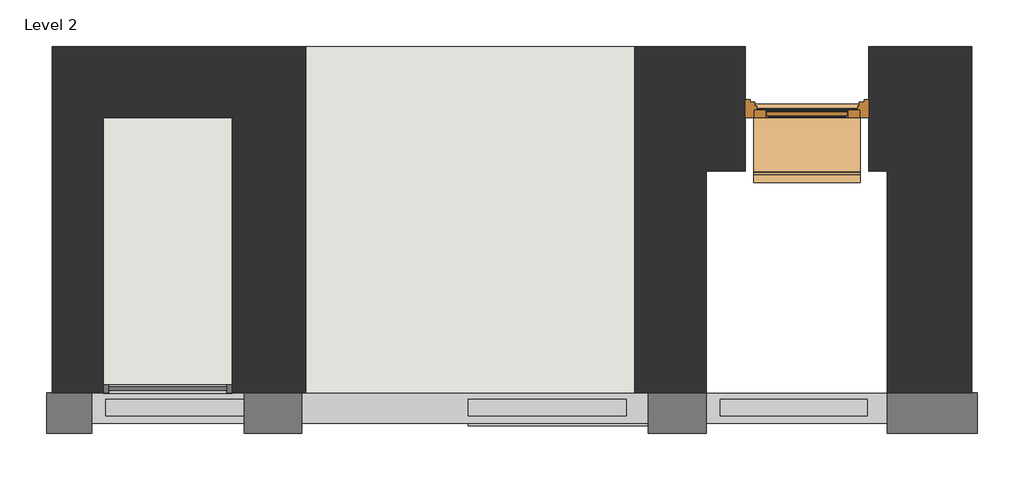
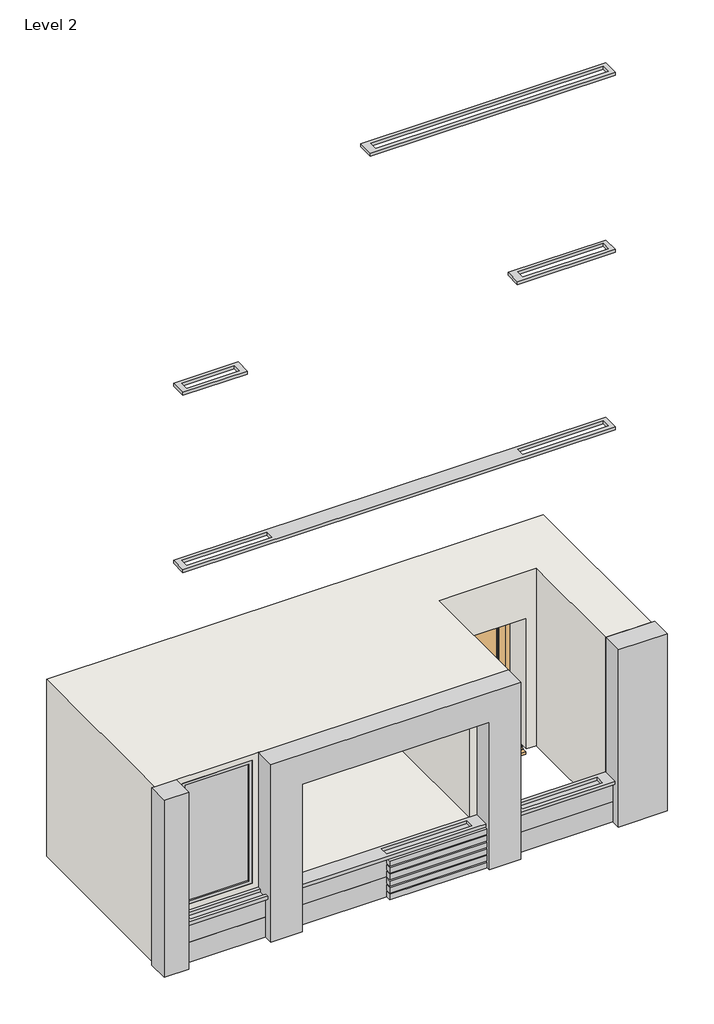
# One storey: 4 proxies, 1 door, 1 wall.
"""IFC4 building model written with IfcOpenShell, lengths in millimetres."""

from ifc_helpers import new_model, si_unit, origin, place, context, project, spatial, transform, mapped, element, save
from components import generic_models_1_generic_models_1_38655d54, generic_models_2_generic_models_2_74699183, generic_models_3_generic_models_3_6bc678b5, generic_models_4_generic_models_4_10dda382, door_1_lite_exterior_door_11236_3070_60b90e85, walls_3_walls_3_bad49033

model = new_model("IFC4")

# Units and contexts
model_context = context("Model", 3, world=origin())
ifc_project = project(units=[si_unit("LENGTHUNIT", "METRE", prefix="MILLI")], contexts=[model_context])

# Site, building, storey
site = spatial("IfcSite", under=ifc_project)
building = spatial("IfcBuilding", under=site)
storey = spatial("IfcBuildingStorey", under=building, Name="Level 2", Elevation=3000.0)

# Proxies
placement = place(None, origin())
generic_models_1_generic_models_1_shape = generic_models_1_generic_models_1_38655d54(model_context)
element("IfcBuildingElementProxy", 1, Name="Generic Models 1 : Generic Models 1", ObjectType="Generic Models 1 : Generic Models 1", at=placement, inside=storey, context=model_context, shape_type="MappedRepresentation", body=[
    mapped(generic_models_1_generic_models_1_shape, transform((0.0, 0.0, 0.0), x_axis=(1.0, 0.0, 0.0), y_axis=(0.0, 1.0, 0.0), z_axis=(0.0, 0.0, 1.0))),
])
generic_models_2_generic_models_2_shape = generic_models_2_generic_models_2_74699183(model_context)
element("IfcBuildingElementProxy", 2, Name="Generic Models 2 : Generic Models 2", ObjectType="Generic Models 2 : Generic Models 2", at=placement, inside=storey, context=model_context, shape_type="MappedRepresentation", body=[
    mapped(generic_models_2_generic_models_2_shape, transform((0.0, 0.0, 0.0), x_axis=(1.0, 0.0, 0.0), y_axis=(0.0, 1.0, 0.0), z_axis=(0.0, 0.0, 1.0))),
])
generic_models_3_generic_models_3_shape = generic_models_3_generic_models_3_6bc678b5(model_context)
element("IfcBuildingElementProxy", 3, Name="Generic Models 3 : Generic Models 3", ObjectType="Generic Models 3 : Generic Models 3", at=placement, inside=storey, context=model_context, shape_type="MappedRepresentation", body=[
    mapped(generic_models_3_generic_models_3_shape, transform((0.0, 0.0, 0.0), x_axis=(1.0, 0.0, 0.0), y_axis=(0.0, 1.0, 0.0), z_axis=(0.0, 0.0, 1.0))),
])
generic_models_4_generic_models_4_shape = generic_models_4_generic_models_4_10dda382(model_context)
element("IfcBuildingElementProxy", 4, Name="Generic Models 4 : Generic Models 4", ObjectType="Generic Models 4 : Generic Models 4", at=placement, inside=storey, context=model_context, shape_type="MappedRepresentation", body=[
    mapped(generic_models_4_generic_models_4_shape, transform((0.0, 0.0, 0.0), x_axis=(1.0, 0.0, 0.0), y_axis=(0.0, 1.0, 0.0), z_axis=(0.0, 0.0, 1.0))),
])

# Door
door_1_lite_exterior_door_11236_3070_shape = door_1_lite_exterior_door_11236_3070_60b90e85(model_context)
element("IfcDoor", 5, ObjectType="1_Lite_Exterior_door_11236 : 3070", at=placement, inside=storey, context=model_context, shape_type="MappedRepresentation", body=[
    mapped(door_1_lite_exterior_door_11236_3070_shape, transform((-4891.5221962, -1387.5449025, 3000.0), x_axis=(-1.0, 0.0, 0.0), y_axis=(0.0, -1.0, 0.0), z_axis=(0.0, 0.0, 1.0))),
])

# Wall
walls_3_walls_3_shape = walls_3_walls_3_bad49033(model_context)
element("IfcWall", 6, ObjectType="Walls 3 : Walls 3", at=placement, inside=storey, context=model_context, shape_type="MappedRepresentation", body=[
    mapped(walls_3_walls_3_shape, transform((0.0, 0.0, 0.0), x_axis=(1.0, 0.0, 0.0), y_axis=(0.0, 1.0, 0.0), z_axis=(0.0, 0.0, 1.0))),
])

save(model, "model.ifc")
